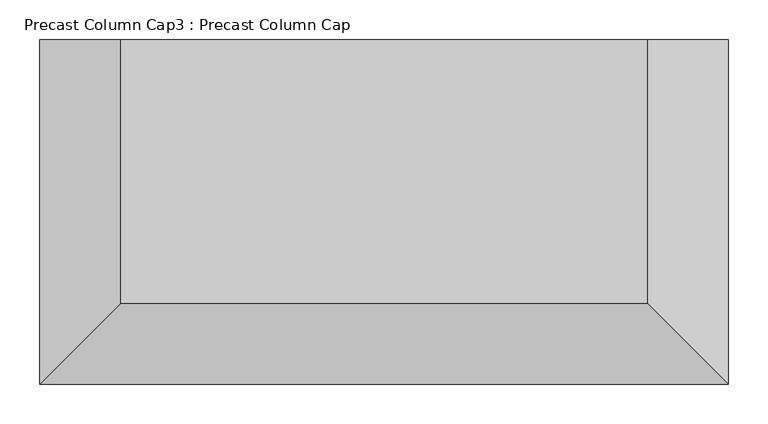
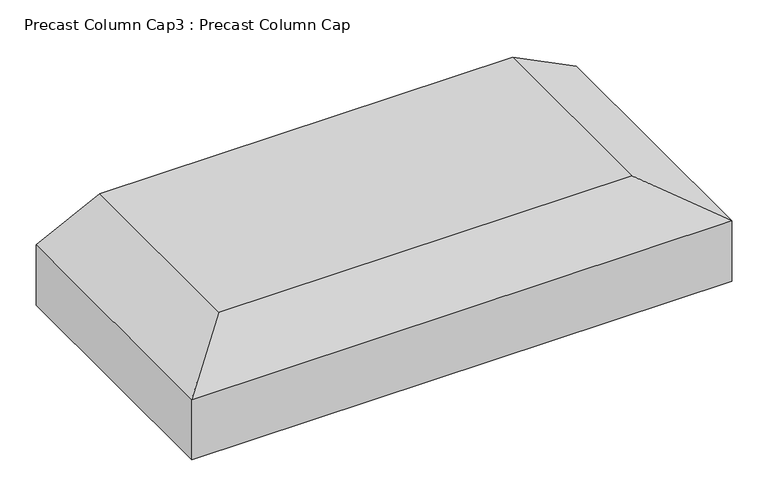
"""IFC4 building model written with IfcOpenShell, lengths in millimetres: proxy geometry, Precast Column Cap3 : Precast Column Cap."""

from ifc_helpers import new_model, si_unit, origin, place, context, project, spatial, faceted_brep, source, transform, mapped, element, save


def precast_column_cap3_precast_column_cap_b02b9755(model_context):
    return source(origin(), model_context, "Body", "Brep", [
        faceted_brep([(-847.835253, -6257.7989595, 35306.0), (-1508.235253, -6257.7989595, 35306.0), (-1508.235253, -6587.9989595, 35306.0), (-847.835253, -6587.9989595, 35306.0), (-746.235253, -6257.7989595, 35255.2), (-746.235253, -6257.7989595, 35153.6), (-1609.835253, -6257.7989595, 35153.6), (-1609.835253, -6257.7989595, 35255.2), (-1609.835253, -6689.5989595, 35255.2), (-746.235253, -6689.5989595, 35255.2), (-746.235253, -6689.5989595, 35153.6), (-1609.835253, -6689.5989595, 35153.6)], [[[0, 1, 2, 3]], [[1, 0, 4, 5, 6, 7]], [[2, 1, 7, 8]], [[3, 2, 8, 9]], [[0, 3, 9, 4]], [[10, 11, 6, 5]], [[10, 5, 4, 9]], [[6, 11, 8, 7]], [[11, 10, 9, 8]]]),
    ])


if __name__ == "__main__":
    model = new_model("IFC4")
    model_context = context("Model", 3, world=origin())
    ifc_project = project(units=[si_unit("LENGTHUNIT", "METRE", prefix="MILLI")], contexts=[model_context])
    site = spatial("IfcSite", under=ifc_project)
    building = spatial("IfcBuilding", under=site)
    placement = place(None, origin())
    precast_column_cap3_precast_column_cap_shape = precast_column_cap3_precast_column_cap_b02b9755(model_context)
    element("IfcBuildingElementProxy", 1, Name="Precast Column Cap3 : Precast Column Cap", ObjectType="Precast Column Cap3 : Precast Column Cap", at=placement, inside=building, context=model_context, shape_type="MappedRepresentation", body=[
        mapped(precast_column_cap3_precast_column_cap_shape, transform((0.0, 0.0, 0.0), x_axis=(1.0, 0.0, 0.0), y_axis=(0.0, 1.0, 0.0), z_axis=(0.0, 0.0, 1.0))),
    ])
    save(model, "model.ifc")
